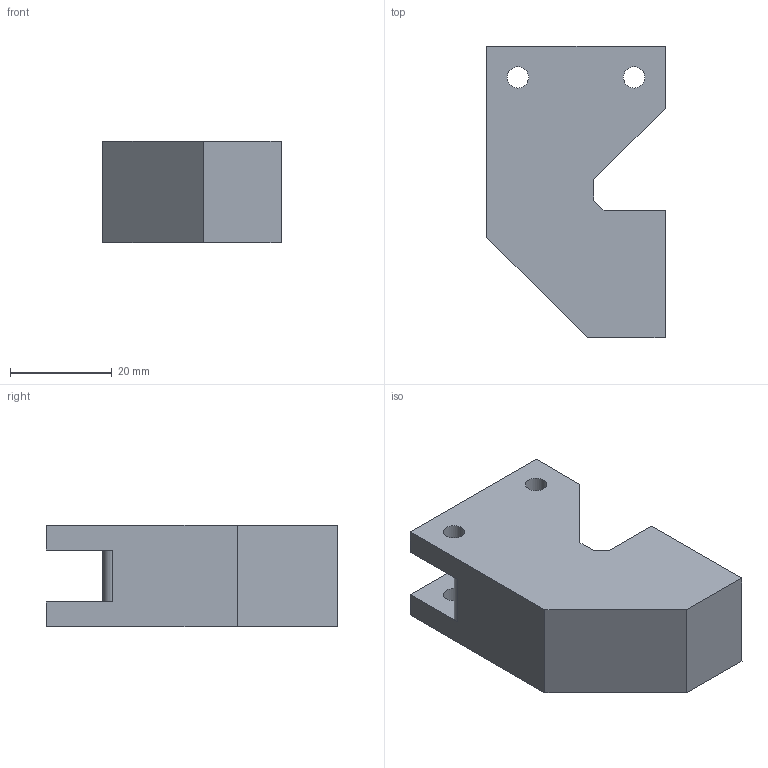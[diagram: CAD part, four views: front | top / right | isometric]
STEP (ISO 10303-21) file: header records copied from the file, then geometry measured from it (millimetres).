
FILE_DESCRIPTION(/* description */ (''),/* implementation_level */ '2;1');
FILE_NAME(/* name */ 'szczeka II.step',/* time_stamp */ '2026-02-28T20:11:59+01:00',/* author */ (''),/* organization */ (''),/* preprocessor_version */ 'ST-DEVELOPER v20.1',/* originating_system */ 'Autodesk Translation Framework v14.24.0.0',/* authorisation */ '');
FILE_SCHEMA (('AUTOMOTIVE_DESIGN { 1 0 10303 214 3 1 1 }'));
Length unit declared in the file: millimetre
Products named in the file (1): szczeka II
Bounding box: 35 x 57.2 x 20 mm (x, y, z)
Volume: 27959.1 mm3; surface area: 7835.9 mm2
Topology: 1 solids, 1 shells, 23 faces, 61 edges, 40 vertices
Faces by surface type: plane 17, cylinder 6
Full cylindrical faces by diameter (mm): 4.2 x4
Entity records: 760 total; most frequent: CARTESIAN_POINT 125, ORIENTED_EDGE 122, DIRECTION 121, EDGE_CURVE 61, LINE 49, VECTOR 49, VERTEX_POINT 40, AXIS2_PLACEMENT_3D 36
